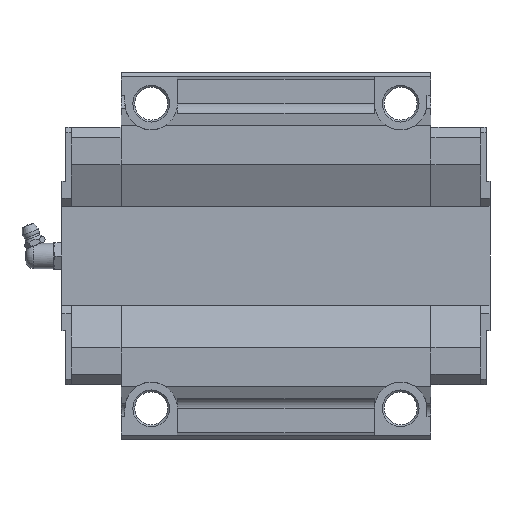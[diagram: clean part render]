
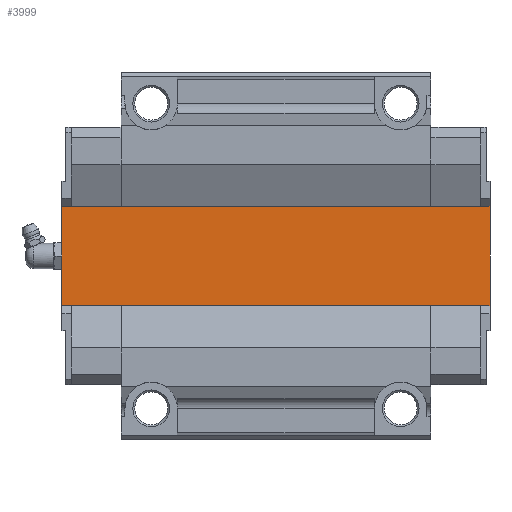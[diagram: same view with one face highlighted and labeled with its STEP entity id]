
A CAD part, front view. The second image highlights one B-rep face of the part: STEP entity #3999.
In plain terms, the highlighted planar face has unit normal (0, -1, 0).
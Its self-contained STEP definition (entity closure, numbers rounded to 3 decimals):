
#1101=ORIENTED_EDGE('',*,*,#1590,.F.);
#1102=ORIENTED_EDGE('',*,*,#1815,.F.);
#1103=ORIENTED_EDGE('',*,*,#1621,.T.);
#1104=ORIENTED_EDGE('',*,*,#1816,.T.);
#1590=EDGE_CURVE('',#2098,#2099,#2517,.T.);
#1621=EDGE_CURVE('',#2127,#2126,#2544,.T.);
#1815=EDGE_CURVE('',#2127,#2098,#2674,.T.);
#1816=EDGE_CURVE('',#2126,#2099,#2675,.T.);
#2098=VERTEX_POINT('',#5988);
#2099=VERTEX_POINT('',#5990);
#2126=VERTEX_POINT('',#6048);
#2127=VERTEX_POINT('',#6050);
#2517=LINE('',#5989,#2941);
#2544=LINE('',#6049,#2968);
#2674=LINE('',#6480,#3098);
#2675=LINE('',#6482,#3099);
#2941=VECTOR('',#4770,1000.);
#2968=VECTOR('',#4807,1000.);
#3098=VECTOR('',#5273,1000.);
#3099=VECTOR('',#5276,1000.);
#3312=EDGE_LOOP('',(#1101,#1102,#1103,#1104));
#3587=FACE_BOUND('',#3312,.T.);
#3800=PLANE('',#4322);
#3999=ADVANCED_FACE('',(#3587),#3800,.T.);
#4322=AXIS2_PLACEMENT_3D('',#6481,#5274,#5275);
#4770=DIRECTION('',(0.,0.,1.));
#4807=DIRECTION('',(0.,0.,1.));
#5273=DIRECTION('',(-1.,0.,0.));
#5274=DIRECTION('',(0.,-1.,0.));
#5275=DIRECTION('',(0.,0.,-1.));
#5276=DIRECTION('',(-1.,0.,0.));
#5988=CARTESIAN_POINT('',(-81.5,31.,-20.998));
#5989=CARTESIAN_POINT('',(-81.5,31.,-20.998));
#5990=CARTESIAN_POINT('',(-81.5,31.,20.998));
#6048=CARTESIAN_POINT('',(81.5,31.,20.998));
#6049=CARTESIAN_POINT('',(81.5,31.,-20.998));
#6050=CARTESIAN_POINT('',(81.5,31.,-20.998));
#6480=CARTESIAN_POINT('',(81.5,31.,-20.998));
#6481=CARTESIAN_POINT('',(81.5,31.,-20.998));
#6482=CARTESIAN_POINT('',(81.5,31.,20.998));
